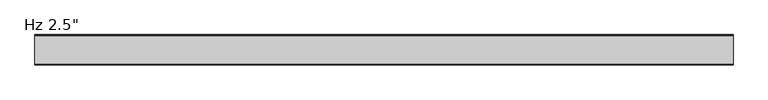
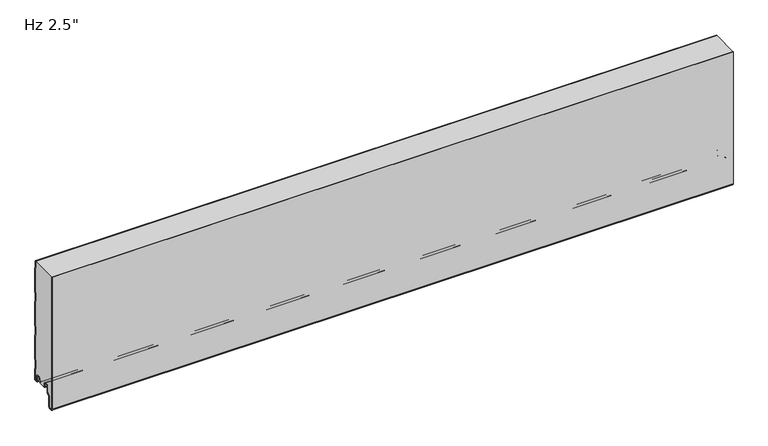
"""IFC4 building model written with IfcOpenShell, lengths in millimetres: plate geometry."""

from ifc_helpers import new_model, si_unit, point, frame, frame_2d, origin, place, context, project, spatial, polyline, circle_curve, trimmed, segment, composite_curve, outline, extrude, source, transform, mapped, element, save
from ifc_brep_helpers import plane_surface, cylinder_surface, revolved_surface, advanced_brep


def plate_fde0f3bd(model_context):
    return source(origin(), model_context, "Body", "SolidModel", [
        advanced_brep(
        [(-730.0, -17.0015159, 2.0313088), (-730.0, -18.0015191, 1.0313116), (-730.0, -19.0015105, 2.0313088), (-730.0, -19.0015105, 6.0315125), (-730.0, -18.0015159, 6.0315125), (-730.0, -18.0015159, 8.7237223), (-730.0, -14.7015202, 12.023718), (-730.0, -10.301529, 12.023718), (-730.0, -7.0015335, 8.7237225), (-730.0, -7.0015335, -1.6962564), (-730.0, -5.2315393, -3.4662506), (-730.0, -0.9999916, -3.4662506), (-730.0, -0.9999916, 21.034026), (-730.0, -2.2002307, 22.4196686), (-730.0, -2.2002307, 41.7948349), (-730.0, -1.0, 43.1804679), (-730.0, -1.0, 97.2338833), (-730.0, -2.2002307, 98.6195162), (-730.0, -2.2002307, 117.9946825), (-730.0, -1.0, 119.3803155), (-730.0, -1.0, 173.4337309), (-730.0, -2.2002307, 174.8193638), (-730.0, -2.2002307, 194.1945301), (-730.0, -1.0, 195.5801631), (-730.0, -1.0, 249.6335785), (-730.0, -2.2002307, 251.0192114), (-730.0, -2.2002307, 266.4), (-730.0, -1.2002307, 266.4), (-730.0, -1.2002307, 251.3920919), (-730.0, -0.3417885, 250.4010442), (-730.0, 0.0, 249.4844273), (-730.0, 0.0, 195.7293142), (-730.0, -0.3417885, 194.8126973), (-730.0, -1.2002307, 193.8216497), (-730.0, -1.2002307, 175.1922443), (-730.0, -0.3417885, 174.2011966), (-730.0, 0.0, 173.2845797), (-730.0, 0.0, 119.5294666), (-730.0, -0.3417885, 118.6128497), (-730.0, -1.2002307, 117.6218021), (-730.0, -1.2002307, 98.9923967), (-730.0, -0.3417885, 98.001349), (-730.0, 0.0, 97.0847321), (-730.0, 0.0, 43.329619), (-730.0, -0.3417885, 42.4130021), (-730.0, -1.2002307, 41.4219545), (-730.0, -1.2002307, 22.7925491), (-730.0, -0.3417885, 21.8015014), (-730.0, 0.0, 20.8847931), (-730.0, 8.4e-06, -3.0662545), (-730.0, -1.3999878, -4.4662506), (-730.0, -5.2315393, -4.4662506), (-730.0, -8.0015335, -1.6962564), (-730.0, -8.0015335, 8.7237225), (-730.0, -10.301529, 11.023718), (-730.0, -14.7015202, 11.023718), (-730.0, -17.0015159, 8.7237223), (730.0, -17.0015159, 2.0313088), (730.0, -17.0015159, 8.7237223), (730.0, -14.7015202, 11.023718), (730.0, -10.301529, 11.023718), (730.0, -8.0015335, 8.7237225), (730.0, -8.0015335, -1.6962564), (730.0, -5.2315393, -4.4662506), (730.0, -1.3999878, -4.4662506), (730.0, 8.4e-06, -3.0662545), (730.0, 8.4e-06, 20.8848845), (730.0, -0.3417885, 21.8015014), (730.0, -1.2002307, 22.7925491), (730.0, -1.2002307, 41.4219545), (730.0, -0.3417885, 42.4130021), (730.0, 0.0, 43.329619), (730.0, 0.0, 97.0847321), (730.0, -0.3417885, 98.001349), (730.0, -1.2002307, 98.9923967), (730.0, -1.2002307, 117.6218021), (730.0, -0.3417885, 118.6128497), (730.0, 0.0, 119.5294666), (730.0, 0.0, 173.2845797), (730.0, -0.3417885, 174.2011966), (730.0, -1.2002307, 175.1922443), (730.0, -1.2002307, 193.8216497), (730.0, -0.3417885, 194.8126973), (730.0, 0.0, 195.7293142), (730.0, 0.0, 249.4844273), (730.0, -0.3417885, 250.4010442), (730.0, -1.2002307, 251.3920919), (730.0, -1.2002307, 266.4), (730.0, -2.2002307, 266.4), (730.0, -2.2002307, 251.0192114), (730.0, -1.0, 249.6335785), (730.0, -1.0, 195.5801631), (730.0, -2.2002307, 194.1945301), (730.0, -2.2002307, 174.8193638), (730.0, -1.0, 173.4337309), (730.0, -1.0, 119.3803155), (730.0, -2.2002307, 117.9946825), (730.0, -2.2002307, 98.6195162), (730.0, -1.0, 97.2338833), (730.0, -1.0, 43.1804679), (730.0, -2.2002307, 41.7948349), (730.0, -2.2002307, 22.4196686), (730.0, -0.9999916, 21.034026), (730.0, -0.9999916, -3.4662506), (730.0, -5.2315393, -3.4662506), (730.0, -7.0015335, -1.6962564), (730.0, -7.0015335, 8.7237225), (730.0, -10.301529, 12.023718), (730.0, -14.7015202, 12.023718), (730.0, -18.0015159, 8.7237223), (730.0, -18.0015159, 6.0315125), (730.0, -19.0015105, 6.0315125), (730.0, -19.0015105, 2.0313088), (730.0, -18.0015192, 1.0313116)],
        [
            (0, 1, circle_curve(frame((-730.0, -18.0015132, 2.0313088), z_axis=(-1.0, 0.0, 0.0), x_axis=(0.0, 0.0, 1.0)), 0.9999973)),
            (1, 2, circle_curve(frame((-730.0, -18.0015133, 2.0313088), z_axis=(-1.0, 0.0, 0.0), x_axis=(0.0, 0.0, 1.0)), 0.9999972)),
            (2, 3),
            (3, 4),
            (4, 5),
            (5, 6, circle_curve(frame((-730.0, -14.7015202, 8.7237223), z_axis=(-1.0, 0.0, 0.0), x_axis=(0.0, 0.0, 1.0)), 3.2999957)),
            (6, 7),
            (7, 8, circle_curve(frame((-730.0, -10.301529, 8.7237225), z_axis=(-1.0, 0.0, 0.0), x_axis=(0.0, 0.0, 1.0)), 3.2999955)),
            (8, 9),
            (9, 10, circle_curve(frame((-730.0, -5.2315393, -1.6962564), z_axis=(1.0, 0.0, 0.0), x_axis=(0.0, 0.0, 1.0)), 1.7699942)),
            (10, 11),
            (11, 12),
            (12, 13),
            (13, 14),
            (14, 15),
            (15, 16),
            (16, 17),
            (17, 18),
            (18, 19),
            (19, 20),
            (20, 21),
            (21, 22),
            (22, 23),
            (23, 24),
            (24, 25),
            (25, 26),
            (26, 27),
            (27, 28),
            (28, 29),
            (29, 30, circle_curve(frame((-730.0, -1.3999972, 249.4844273), z_axis=(-1.0, 0.0, 0.0), x_axis=(0.0, 0.0, 1.0)), 1.3999972)),
            (30, 31),
            (31, 32, circle_curve(frame((-730.0, -1.3999972, 195.7293142), z_axis=(-1.0, 0.0, 0.0), x_axis=(0.0, 0.0, 1.0)), 1.3999972)),
            (32, 33),
            (33, 34),
            (34, 35),
            (35, 36, circle_curve(frame((-730.0, -1.3999972, 173.2845797), z_axis=(-1.0, 0.0, 0.0), x_axis=(0.0, 0.0, 1.0)), 1.3999972)),
            (36, 37),
            (37, 38, circle_curve(frame((-730.0, -1.3999972, 119.5294666), z_axis=(-1.0, 0.0, 0.0), x_axis=(0.0, 0.0, 1.0)), 1.3999972)),
            (38, 39),
            (39, 40),
            (40, 41),
            (41, 42, circle_curve(frame((-730.0, -1.3999972, 97.0847321), z_axis=(-1.0, 0.0, 0.0), x_axis=(0.0, 0.0, 1.0)), 1.3999972)),
            (42, 43),
            (43, 44, circle_curve(frame((-730.0, -1.3999972, 43.329619), z_axis=(-1.0, 0.0, 0.0), x_axis=(0.0, 0.0, 1.0)), 1.3999972)),
            (44, 45),
            (45, 46),
            (46, 47),
            (47, 48, circle_curve(frame((-730.0, -1.3999972, 20.8848845), z_axis=(-1.0, 0.0, 0.0), x_axis=(0.0, 0.0, 1.0)), 1.3999972)),
            (48, 49),
            (49, 50, circle_curve(frame((-730.0, -1.3999878, -3.0662545), z_axis=(-1.0, 0.0, 0.0), x_axis=(0.0, 0.0, 1.0)), 1.3999962)),
            (50, 51),
            (51, 52, circle_curve(frame((-730.0, -5.2315393, -1.6962564), z_axis=(-1.0, 0.0, 0.0), x_axis=(0.0, 0.0, 1.0)), 2.7699942)),
            (52, 53),
            (53, 54, circle_curve(frame((-730.0, -10.301529, 8.7237225), z_axis=(1.0, 0.0, 0.0), x_axis=(0.0, 0.0, 1.0)), 2.2999955)),
            (54, 55),
            (55, 56, circle_curve(frame((-730.0, -14.7015202, 8.7237223), z_axis=(1.0, 0.0, 0.0), x_axis=(0.0, 0.0, 1.0)), 2.2999957)),
            (56, 0),
            (57, 58),
            (58, 59, circle_curve(frame((730.0, -14.7015202, 8.7237223), z_axis=(-1.0, 0.0, 0.0), x_axis=(0.0, 0.0, 1.0)), 2.2999957)),
            (59, 60),
            (60, 61, circle_curve(frame((730.0, -10.301529, 8.7237225), z_axis=(-1.0, 0.0, 0.0), x_axis=(0.0, 0.0, 1.0)), 2.2999955)),
            (61, 62),
            (62, 63, circle_curve(frame((730.0, -5.2315393, -1.6962564), z_axis=(1.0, 0.0, 0.0), x_axis=(0.0, 0.0, 1.0)), 2.7699942)),
            (63, 64),
            (64, 65, circle_curve(frame((730.0, -1.3999878, -3.0662545), z_axis=(1.0, 0.0, 0.0), x_axis=(0.0, 0.0, 1.0)), 1.3999962)),
            (65, 66),
            (66, 67, circle_curve(frame((730.0, -1.3999972, 20.8848845), z_axis=(1.0, 0.0, 0.0), x_axis=(0.0, 0.0, 1.0)), 1.3999972)),
            (67, 68),
            (68, 69),
            (69, 70),
            (70, 71, circle_curve(frame((730.0, -1.3999972, 43.329619), z_axis=(1.0, 0.0, 0.0), x_axis=(0.0, 0.0, 1.0)), 1.3999972)),
            (71, 72),
            (72, 73, circle_curve(frame((730.0, -1.3999972, 97.0847321), z_axis=(1.0, 0.0, 0.0), x_axis=(0.0, 0.0, 1.0)), 1.3999972)),
            (73, 74),
            (74, 75),
            (75, 76),
            (76, 77, circle_curve(frame((730.0, -1.3999972, 119.5294666), z_axis=(1.0, 0.0, 0.0), x_axis=(0.0, 0.0, 1.0)), 1.3999972)),
            (77, 78),
            (78, 79, circle_curve(frame((730.0, -1.3999972, 173.2845797), z_axis=(1.0, 0.0, 0.0), x_axis=(0.0, 0.0, 1.0)), 1.3999972)),
            (79, 80),
            (80, 81),
            (81, 82),
            (82, 83, circle_curve(frame((730.0, -1.3999972, 195.7293142), z_axis=(1.0, 0.0, 0.0), x_axis=(0.0, 0.0, 1.0)), 1.3999972)),
            (83, 84),
            (84, 85, circle_curve(frame((730.0, -1.3999972, 249.4844273), z_axis=(1.0, 0.0, 0.0), x_axis=(0.0, 0.0, 1.0)), 1.3999972)),
            (85, 86),
            (86, 87),
            (87, 88),
            (88, 89),
            (89, 90),
            (90, 91),
            (91, 92),
            (92, 93),
            (93, 94),
            (94, 95),
            (95, 96),
            (96, 97),
            (97, 98),
            (98, 99),
            (99, 100),
            (100, 101),
            (101, 102),
            (102, 103),
            (103, 104),
            (104, 105, circle_curve(frame((730.0, -5.2315393, -1.6962564), z_axis=(-1.0, 0.0, 0.0), x_axis=(0.0, 0.0, 1.0)), 1.7699942)),
            (105, 106),
            (106, 107, circle_curve(frame((730.0, -10.301529, 8.7237225), z_axis=(1.0, 0.0, 0.0), x_axis=(0.0, 0.0, 1.0)), 3.2999955)),
            (107, 108),
            (108, 109, circle_curve(frame((730.0, -14.7015202, 8.7237223), z_axis=(1.0, 0.0, 0.0), x_axis=(0.0, 0.0, 1.0)), 3.2999957)),
            (109, 110),
            (110, 111),
            (111, 112),
            (112, 113, circle_curve(frame((730.0, -18.0015133, 2.0313088), z_axis=(1.0, 0.0, 0.0), x_axis=(0.0, 0.0, 1.0)), 0.9999972)),
            (113, 57, circle_curve(frame((730.0, -18.0015132, 2.0313088), z_axis=(1.0, 0.0, 0.0), x_axis=(0.0, 0.0, 1.0)), 0.9999973)),
            (26, 88),
            (87, 27),
            (56, 58),
            (57, 0),
            (55, 59),
            (54, 60),
            (53, 61),
            (52, 62),
            (51, 63),
            (50, 64),
            (49, 65),
            (48, 66),
            (47, 67),
            (46, 68),
            (45, 69),
            (44, 70),
            (43, 71),
            (42, 72),
            (41, 73),
            (40, 74),
            (39, 75),
            (38, 76),
            (37, 77),
            (36, 78),
            (19, 95),
            (94, 20),
            (18, 96),
            (17, 97),
            (16, 98),
            (15, 99),
            (14, 100),
            (13, 101),
            (12, 102),
            (11, 103),
            (10, 104),
            (9, 105),
            (8, 106),
            (7, 107),
            (6, 108),
            (5, 109),
            (4, 110),
            (3, 111),
            (2, 112),
            (1, 113),
            (35, 79),
            (34, 80),
            (33, 81),
            (32, 82),
            (31, 83),
            (30, 84),
            (29, 85),
            (28, 86),
            (25, 89),
            (24, 90),
            (23, 91),
            (22, 92),
            (21, 93),
        ],
        [
            plane_surface(frame((-730.0, 0.0, 533.4), z_axis=(-1.0, 0.0, 0.0), x_axis=(0.0, 1.0, 0.0))),
            plane_surface(frame((730.0, 0.0, 533.4), z_axis=(1.0, 0.0, 0.0), x_axis=(0.0, 1.0, 0.0))),
            plane_surface(frame((730.0, 10.0, 266.4), z_axis=(0.0, 0.0, 1.0), x_axis=(-1.0, 0.0, 0.0))),
            plane_surface(frame((-730.0, -17.0015159, 2.0313088), z_axis=(0.0, 1.0, 0.0), x_axis=(1.0, 0.0, 0.0))),
            revolved_surface(polyline([(730.0, -14.7015202, 11.023718), (-730.0, -14.7015202, 11.023718)]), (-730.0, -14.7015202, 8.7237223), (1.0, 0.0, 0.0)),
            plane_surface(frame((-730.0, -14.7015202, 11.023718), z_axis=(0.0, 0.0, -1.0), x_axis=(1.0, 0.0, 0.0))),
            revolved_surface(polyline([(730.0, -10.301529, 11.023717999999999), (-730.0, -10.301529, 11.023717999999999)]), (-730.0, -10.301529, 8.7237225), (1.0, 0.0, 0.0)),
            plane_surface(frame((-730.0, -8.0015335, 8.7237225), z_axis=(0.0, -1.0, 0.0), x_axis=(1.0, 0.0, 0.0))),
            cylinder_surface(frame((-730.0, -5.2315393, -1.6962564), z_axis=(-1.0, 0.0, 0.0), x_axis=(0.0, 0.0, 1.0)), 2.7699942),
            plane_surface(frame((-730.0, -5.2315393, -4.4662506), z_axis=(0.0, 0.0, -1.0), x_axis=(1.0, 0.0, 0.0))),
            cylinder_surface(frame((-730.0, -1.3999878, -3.0662545), z_axis=(-1.0, 0.0, 0.0), x_axis=(0.0, 0.0, 1.0)), 1.3999962),
            plane_surface(frame((-730.0, 8.4e-06, -3.0662545), z_axis=(0.0, 1.0, 0.0), x_axis=(1.0, 0.0, 0.0))),
            cylinder_surface(frame((-730.0, -1.3999972, 20.8848845), z_axis=(-1.0, 0.0, 0.0), x_axis=(0.0, 0.0, 1.0)), 1.3999972),
            plane_surface(frame((-730.0, -0.3417885, 21.8015014), z_axis=(0.0, 0.755864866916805, 0.6547276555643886), x_axis=(1.0, 0.0, 0.0))),
            plane_surface(frame((-730.0, -1.2002307, 32.1072518), z_axis=(0.0, 1.0, 0.0), x_axis=(1.0, 0.0, 0.0))),
            plane_surface(frame((-730.0, -1.2002307, 41.4219545), z_axis=(0.0, 0.755864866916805, -0.6547276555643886), x_axis=(1.0, 0.0, 0.0))),
            cylinder_surface(frame((-730.0, -1.3999972, 43.329619), z_axis=(-1.0, 0.0, 0.0), x_axis=(0.0, 0.0, 1.0)), 1.3999972),
            plane_surface(frame((-730.0, 0.0, 43.329619), z_axis=(0.0, 1.0, 0.0), x_axis=(1.0, 0.0, 0.0))),
            cylinder_surface(frame((-730.0, -1.3999972, 97.0847321), z_axis=(-1.0, 0.0, 0.0), x_axis=(0.0, 0.0, 1.0)), 1.3999972),
            plane_surface(frame((-730.0, -0.3417885, 98.001349), z_axis=(0.0, 0.755864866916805, 0.6547276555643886), x_axis=(1.0, 0.0, 0.0))),
            plane_surface(frame((-730.0, -1.2002307, 108.3070994), z_axis=(0.0, 1.0, 0.0), x_axis=(1.0, 0.0, 0.0))),
            plane_surface(frame((-730.0, -1.2002307, 117.6218021), z_axis=(0.0, 0.755864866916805, -0.6547276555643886), x_axis=(1.0, 0.0, 0.0))),
            cylinder_surface(frame((-730.0, -1.3999972, 119.5294666), z_axis=(-1.0, 0.0, 0.0), x_axis=(0.0, 0.0, 1.0)), 1.3999972),
            plane_surface(frame((-730.0, 0.0, 119.5294666), z_axis=(0.0, 1.0, 0.0), x_axis=(1.0, 0.0, 0.0))),
            plane_surface(frame((-730.0, -1.0, 173.4337309), z_axis=(0.0, -1.0, 0.0), x_axis=(1.0, 0.0, 0.0))),
            plane_surface(frame((-730.0, -1.0, 119.3803155), z_axis=(0.0, -0.755864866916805, 0.6547276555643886), x_axis=(1.0, 0.0, 0.0))),
            plane_surface(frame((-730.0, -2.2002307, 117.9946825), z_axis=(0.0, -1.0, 0.0), x_axis=(1.0, 0.0, 0.0))),
            plane_surface(frame((-730.0, -2.2002307, 98.6195162), z_axis=(0.0, -0.755864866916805, -0.6547276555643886), x_axis=(1.0, 0.0, 0.0))),
            plane_surface(frame((-730.0, -1.0, 97.2338833), z_axis=(0.0, -1.0, 0.0), x_axis=(1.0, 0.0, 0.0))),
            plane_surface(frame((-730.0, -1.0, 43.1804679), z_axis=(0.0, -0.755864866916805, 0.6547276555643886), x_axis=(1.0, 0.0, 0.0))),
            plane_surface(frame((-730.0, -2.2002307, 41.7948349), z_axis=(0.0, -1.0, 0.0), x_axis=(1.0, 0.0, 0.0))),
            plane_surface(frame((-730.0, -2.2002307, 22.4196686), z_axis=(0.0, -0.755864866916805, -0.6547276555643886), x_axis=(1.0, 0.0, 0.0))),
            plane_surface(frame((-730.0, -0.9999916, 21.034026), z_axis=(0.0, -1.0, 0.0), x_axis=(1.0, 0.0, 0.0))),
            plane_surface(frame((-730.0, -0.9999916, -3.4662506), z_axis=(0.0, 0.0, 1.0), x_axis=(1.0, 0.0, 0.0))),
            revolved_surface(polyline([(730.0, -5.2315393, 0.07373779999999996), (-730.0, -5.2315393, 0.07373779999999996)]), (-730.0, -5.2315393, -1.6962564), (1.0, 0.0, 0.0)),
            plane_surface(frame((-730.0, -7.0015335, -1.6962564), z_axis=(0.0, 1.0, 0.0), x_axis=(1.0, 0.0, 0.0))),
            cylinder_surface(frame((-730.0, -10.301529, 8.7237225), z_axis=(-1.0, 0.0, 0.0), x_axis=(0.0, 0.0, 1.0)), 3.2999955),
            plane_surface(frame((-730.0, -10.301529, 12.023718), z_axis=(0.0, 0.0, 1.0), x_axis=(1.0, 0.0, 0.0))),
            cylinder_surface(frame((-730.0, -14.7015202, 8.7237223), z_axis=(-1.0, 0.0, 0.0), x_axis=(0.0, 0.0, 1.0)), 3.2999957),
            plane_surface(frame((-730.0, -18.0015159, 8.7237223), z_axis=(0.0, -1.0, 0.0), x_axis=(1.0, 0.0, 0.0))),
            plane_surface(frame((-730.0, -18.0015159, 6.0315125), z_axis=(0.0, 0.0, 1.0), x_axis=(1.0, 0.0, 0.0))),
            plane_surface(frame((-730.0, -19.0015105, 6.0315125), z_axis=(0.0, -1.0, 0.0), x_axis=(1.0, 0.0, 0.0))),
            cylinder_surface(frame((-730.0, -18.0015133, 2.0313088), z_axis=(-1.0, 0.0, 0.0), x_axis=(0.0, 0.0, 1.0)), 0.9999972),
            cylinder_surface(frame((-730.0, -18.0015132, 2.0313088), z_axis=(-1.0, 0.0, 0.0), x_axis=(0.0, 0.0, 1.0)), 0.9999973),
            cylinder_surface(frame((-730.0, -1.3999972, 173.2845797), z_axis=(-1.0, 0.0, 0.0), x_axis=(0.0, 0.0, 1.0)), 1.3999972),
            plane_surface(frame((-730.0, -0.3417885, 174.2011966), z_axis=(0.0, 0.755864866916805, 0.6547276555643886), x_axis=(1.0, 0.0, 0.0))),
            plane_surface(frame((-730.0, -1.2002307, 184.506947), z_axis=(0.0, 1.0, 0.0), x_axis=(1.0, 0.0, 0.0))),
            plane_surface(frame((-730.0, -1.2002307, 193.8216497), z_axis=(0.0, 0.755864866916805, -0.6547276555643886), x_axis=(1.0, 0.0, 0.0))),
            cylinder_surface(frame((-730.0, -1.3999972, 195.7293142), z_axis=(-1.0, 0.0, 0.0), x_axis=(0.0, 0.0, 1.0)), 1.3999972),
            plane_surface(frame((-730.0, 0.0, 195.7293142), z_axis=(0.0, 1.0, 0.0), x_axis=(1.0, 0.0, 0.0))),
            cylinder_surface(frame((-730.0, -1.3999972, 249.4844273), z_axis=(-1.0, 0.0, 0.0), x_axis=(0.0, 0.0, 1.0)), 1.3999972),
            plane_surface(frame((-730.0, -0.3417885, 250.4010442), z_axis=(0.0, 0.755864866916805, 0.6547276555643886), x_axis=(1.0, 0.0, 0.0))),
            plane_surface(frame((-730.0, -1.2002307, 260.7067946), z_axis=(0.0, 1.0, 0.0), x_axis=(1.0, 0.0, 0.0))),
            plane_surface(frame((-730.0, -2.2002307, 270.3943777), z_axis=(0.0, -1.0, 0.0), x_axis=(1.0, 0.0, 0.0))),
            plane_surface(frame((-730.0, -2.2002307, 251.0192114), z_axis=(0.0, -0.755864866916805, -0.6547276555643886), x_axis=(1.0, 0.0, 0.0))),
            plane_surface(frame((-730.0, -1.0, 249.6335785), z_axis=(0.0, -1.0, 0.0), x_axis=(1.0, 0.0, 0.0))),
            plane_surface(frame((-730.0, -1.0, 195.5801631), z_axis=(0.0, -0.755864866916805, 0.6547276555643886), x_axis=(1.0, 0.0, 0.0))),
            plane_surface(frame((-730.0, -2.2002307, 194.1945301), z_axis=(0.0, -1.0, 0.0), x_axis=(1.0, 0.0, 0.0))),
            plane_surface(frame((-730.0, -2.2002307, 174.8193638), z_axis=(0.0, -0.755864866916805, -0.6547276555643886), x_axis=(1.0, 0.0, 0.0))),
        ],
        [
            (0, [[1, 2, 3, 4, 5, 6, 7, 8, 9, 10, 11, 12, 13, 14, 15, 16, 17, 18, 19, 20, 21, 22, 23, 24, 25, 26, 27, 28, 29, 30, 31, 32, 33, 34, 35, 36, 37, 38, 39, 40, 41, 42, 43, 44, 45, 46, 47, 48, 49, 50, 51, 52, 53, 54, 55, 56, 57]]),
            (1, [[58, 59, 60, 61, 62, 63, 64, 65, 66, 67, 68, 69, 70, 71, 72, 73, 74, 75, 76, 77, 78, 79, 80, 81, 82, 83, 84, 85, 86, 87, 88, 89, 90, 91, 92, 93, 94, 95, 96, 97, 98, 99, 100, 101, 102, 103, 104, 105, 106, 107, 108, 109, 110, 111, 112, 113, 114]]),
            (2, [[115, -88, 116, -27]]),
            (3, [[117, -58, 118, -57]]),
            (4, [[119, -59, -117, -56]]),
            (5, [[120, -60, -119, -55]]),
            (6, [[121, -61, -120, -54]]),
            (7, [[122, -62, -121, -53]]),
            (8, [[123, -63, -122, -52]]),
            (9, [[124, -64, -123, -51]]),
            (10, [[125, -65, -124, -50]]),
            (11, [[126, -66, -125, -49]]),
            (12, [[127, -67, -126, -48]]),
            (13, [[128, -68, -127, -47]]),
            (14, [[129, -69, -128, -46]]),
            (15, [[130, -70, -129, -45]]),
            (16, [[131, -71, -130, -44]]),
            (17, [[132, -72, -131, -43]]),
            (18, [[133, -73, -132, -42]]),
            (19, [[134, -74, -133, -41]]),
            (20, [[135, -75, -134, -40]]),
            (21, [[136, -76, -135, -39]]),
            (22, [[137, -77, -136, -38]]),
            (23, [[138, -78, -137, -37]]),
            (24, [[139, -95, 140, -20]]),
            (25, [[141, -96, -139, -19]]),
            (26, [[142, -97, -141, -18]]),
            (27, [[143, -98, -142, -17]]),
            (28, [[144, -99, -143, -16]]),
            (29, [[145, -100, -144, -15]]),
            (30, [[146, -101, -145, -14]]),
            (31, [[147, -102, -146, -13]]),
            (32, [[148, -103, -147, -12]]),
            (33, [[149, -104, -148, -11]]),
            (34, [[150, -105, -149, -10]]),
            (35, [[151, -106, -150, -9]]),
            (36, [[152, -107, -151, -8]]),
            (37, [[153, -108, -152, -7]]),
            (38, [[154, -109, -153, -6]]),
            (39, [[155, -110, -154, -5]]),
            (40, [[156, -111, -155, -4]]),
            (41, [[157, -112, -156, -3]]),
            (42, [[158, -113, -157, -2]]),
            (43, [[-118, -114, -158, -1]]),
            (44, [[159, -79, -138, -36]]),
            (45, [[160, -80, -159, -35]]),
            (46, [[161, -81, -160, -34]]),
            (47, [[162, -82, -161, -33]]),
            (48, [[163, -83, -162, -32]]),
            (49, [[164, -84, -163, -31]]),
            (50, [[165, -85, -164, -30]]),
            (51, [[166, -86, -165, -29]]),
            (52, [[-28, -116, -87, -166]]),
            (53, [[-89, -115, -26, 167]]),
            (54, [[168, -90, -167, -25]]),
            (55, [[169, -91, -168, -24]]),
            (56, [[170, -92, -169, -23]]),
            (57, [[171, -93, -170, -22]]),
            (58, [[-140, -94, -171, -21]]),
        ],
    ),
        extrude(outline(composite_curve([segment(trimmed(circle_curve(frame_2d((-59.9304001, -32.4521176)), 3.5702393), [point((-59.6191297, -36.008762))], [point((-63.5, -32.5196853))], False, "CARTESIAN"), True, "CONTINUOUS"), segment(polyline([(-63.5, -32.5196853), (-63.5, 266.4), (-62.5, 266.4), (-62.5, -32.509446)]), True, "CONTINUOUS"), segment(trimmed(circle_curve(frame_2d((-59.9304001, -32.4521176)), 2.5702393), [point((-62.5, -32.509446))], [point((-59.7063145, -35.0125699))], True, "CARTESIAN"), True, "CONTINUOUS"), segment(polyline([(-59.7063145, -35.0125699), (-54.7244936, -34.5765709)]), True, "CONTINUOUS"), segment(trimmed(circle_curve(frame_2d((-55.2058842, -31.9198392)), 2.6999926), [point((-54.7244936, -34.5765709))], [point((-52.5058916, -31.9198392))], True, "CARTESIAN"), True, "CONTINUOUS"), segment(polyline([(-52.5058916, -31.9198392), (-52.5058916, -9.8247096), (-47.0038205, -4.3226385)]), True, "CONTINUOUS"), segment(trimmed(circle_curve(frame_2d((-48.2058982, -3.1205608)), 1.6999946), [point((-47.0038205, -4.3226385))], [point((-46.5059036, -3.1205608))], True, "CARTESIAN"), True, "CONTINUOUS"), segment(polyline([(-46.5059036, -3.1205608), (-46.5059036, 8.6903283)]), True, "CONTINUOUS"), segment(trimmed(circle_curve(frame_2d((-43.1559083, 8.6903283)), 3.3499953), [point((-46.5059036, 8.6903283))], [point((-43.1559083, 12.0403236))], False, "CARTESIAN"), True, "CONTINUOUS"), segment(polyline([(-43.1559083, 12.0403236), (-38.7559171, 12.0403236)]), True, "CONTINUOUS"), segment(trimmed(circle_curve(frame_2d((-38.7559171, 8.6903283)), 3.3499953), [point((-38.7559171, 12.0403236))], [point((-35.4059218, 8.6903283))], False, "CARTESIAN"), True, "CONTINUOUS"), segment(polyline([(-35.4059218, 8.6903283), (-35.4059218, 5.9912173), (-34.0074429, 5.9912173), (-34.0074429, 2.2328239)]), True, "CONTINUOUS"), segment(trimmed(circle_curve(frame_2d((-35.2074396, 2.2313092)), 1.1999976), [point((-34.0074429, 2.2328239))], [point((-35.1769177, 1.0316999))], False, "CARTESIAN"), True, "CONTINUOUS"), segment(trimmed(circle_curve(frame_2d((-35.2074396, 2.2313092)), 1.1999976), [point((-35.1769177, 1.0316999))], [point((-36.4059218, 2.1710221))], False, "CARTESIAN"), True, "CONTINUOUS"), segment(polyline([(-36.4059218, 2.1710221), (-36.4059218, 8.6903283)]), True, "CONTINUOUS"), segment(trimmed(circle_curve(frame_2d((-38.7559171, 8.6903283)), 2.3499953), [point((-36.4059218, 8.6903283))], [point((-38.7559171, 11.0403236))], True, "CARTESIAN"), True, "CONTINUOUS"), segment(polyline([(-38.7559171, 11.0403236), (-43.1559083, 11.0403236)]), True, "CONTINUOUS"), segment(trimmed(circle_curve(frame_2d((-43.1559083, 8.6903283)), 2.3499953), [point((-43.1559083, 11.0403236))], [point((-45.5059036, 8.6903283))], True, "CARTESIAN"), True, "CONTINUOUS"), segment(polyline([(-45.5059036, 8.6903283), (-45.5059036, -3.1205608)]), True, "CONTINUOUS"), segment(trimmed(circle_curve(frame_2d((-48.2058982, -3.1205608)), 2.6999946), [point((-45.5059036, -3.1205608))], [point((-46.2967137, -5.0297453))], False, "CARTESIAN"), True, "CONTINUOUS"), segment(polyline([(-46.2967137, -5.0297453), (-51.1251312, -9.8581627)]), True, "CONTINUOUS"), segment(trimmed(circle_curve(frame_2d((-50.2058942, -10.7773997)), 1.2999974), [point((-51.1251312, -9.8581627))], [point((-51.5058916, -10.7773997))], True, "CARTESIAN"), True, "CONTINUOUS"), segment(polyline([(-51.5058916, -10.7773997), (-51.5058916, -31.9198392)]), True, "CONTINUOUS"), segment(trimmed(circle_curve(frame_2d((-55.2058842, -31.9198392)), 3.6999926), [point((-51.5058916, -31.9198392))], [point((-54.5950831, -35.5690675))], False, "CARTESIAN"), True, "CONTINUOUS"), segment(polyline([(-54.5950831, -35.5690675), (-59.6191297, -36.008762)]), True, "CONTINUOUS")], self_intersect=False)), frame((-730.0, 0.0, 0.0), z_axis=(1.0, 0.0, 0.0), x_axis=(0.0, 1.0, 0.0)), (0.0, 0.0, 1.0), 1460.0),
        advanced_brep(
        [(-730.0, -35.170875, 1.0316999), (-730.0, -34.0014003, 2.2328239), (-730.0, -34.0014003, 5.9912173), (-730.0, -35.3998791, 5.9912173), (-730.0, -35.3998791, 8.6903283), (-730.0, -38.7498744, 12.0403236), (-730.0, -43.1498656, 12.0403236), (-730.0, -46.4998609, 8.6903283), (-730.0, -46.4998609, -3.1205608), (-730.0, -46.9977778, -4.3226385), (-730.0, -52.4998489, -9.8247096), (-730.0, -52.4998489, -31.9198392), (-730.0, -54.7184509, -34.5765709), (-730.0, -59.7002718, -35.0125699), (-730.0, -62.4945967, -32.4521176), (-730.0, -62.5, 266.4), (-730.0, -2.2002307, 266.4), (-730.0, -2.2002307, 251.0192115), (-730.0, -1.0, 249.6335785), (-730.0, -1.0, 195.5801631), (-730.0, -2.2002307, 194.1945302), (-730.0, -2.2002307, 174.8193639), (-730.0, -1.0, 173.4337309), (-730.0, -1.0, 119.3803155), (-730.0, -2.2002307, 117.9946826), (-730.0, -2.2002307, 98.6195163), (-730.0, -1.0, 97.2338833), (-730.0, -1.0, 43.1804679), (-730.0, -2.2002307, 41.794835), (-730.0, -2.2002307, 22.4196687), (-730.0, -0.9999916, 21.034026), (-730.0, -0.9999916, -3.4662506), (-730.0, -5.2315389, -3.4662506), (-730.0, -7.0015331, -1.6962564), (-730.0, -7.0015331, 8.7237222), (-730.0, -10.301529, 12.023718), (-730.0, -14.7015202, 12.023718), (-730.0, -18.0015159, 8.7237223), (-730.0, -18.0015159, 6.0315125), (-730.0, -19.0015105, 6.0315125), (-730.0, -19.0015105, 2.0313089), (-730.0, -18.0015192, 1.0313117), (-730.0, -19.0328308, 0.0), (-730.0, -34.1391751, 0.0), (730.0, -35.170875, 1.0316999), (730.0, -34.1391751, 0.0), (730.0, -19.0328308, 0.0), (730.0, -18.0015192, 1.0313117), (730.0, -19.0015105, 2.0313089), (730.0, -19.0015105, 6.0315125), (730.0, -18.0015159, 6.0315125), (730.0, -18.0015159, 8.7237223), (730.0, -14.7015202, 12.023718), (730.0, -10.301529, 12.023718), (730.0, -7.0015331, 8.7237222), (730.0, -7.0015331, -1.6962564), (730.0, -5.2315389, -3.4662506), (730.0, -0.9999916, -3.4662506), (730.0, -0.9999916, 21.034026), (730.0, -2.2002307, 22.4196687), (730.0, -2.2002307, 41.794835), (730.0, -1.0, 43.1804679), (730.0, -1.0, 97.2338833), (730.0, -2.2002307, 98.6195163), (730.0, -2.2002307, 117.9946826), (730.0, -1.0, 119.3803155), (730.0, -1.0, 173.4337309), (730.0, -2.2002307, 174.8193639), (730.0, -2.2002307, 194.1945302), (730.0, -1.0, 195.5801631), (730.0, -1.0, 249.6335785), (730.0, -2.2002307, 251.0192115), (730.0, -2.2002307, 266.4), (730.0, -62.5, 266.4), (730.0, -62.5, -32.4521176), (730.0, -59.7002718, -35.0125699), (730.0, -54.7184509, -34.5765709), (730.0, -52.4998489, -31.9198392), (730.0, -52.4998489, -9.8247096), (730.0, -46.9977778, -4.3226385), (730.0, -46.4998609, -3.1205608), (730.0, -46.4998609, 8.6903283), (730.0, -43.1498656, 12.0403236), (730.0, -38.7498744, 12.0403236), (730.0, -35.3998791, 8.6903283), (730.0, -35.3998791, 5.9912173), (730.0, -34.0014003, 5.9912173), (730.0, -34.0014003, 2.2328239)],
        [
            (0, 1, circle_curve(frame((-730.0, -35.2013969, 2.2313092), z_axis=(1.0, 0.0, 0.0), x_axis=(0.0, 0.0, -1.0)), 1.1999976)),
            (1, 2),
            (2, 3),
            (3, 4),
            (4, 5, circle_curve(frame((-730.0, -38.7498744, 8.6903283), z_axis=(1.0, 0.0, 0.0), x_axis=(0.0, 0.0, -1.0)), 3.3499953)),
            (5, 6),
            (6, 7, circle_curve(frame((-730.0, -43.1498656, 8.6903283), z_axis=(1.0, 0.0, 0.0), x_axis=(0.0, 0.0, -1.0)), 3.3499953)),
            (7, 8),
            (8, 9, circle_curve(frame((-730.0, -48.1998555, -3.1205608), z_axis=(-1.0, 0.0, 0.0), x_axis=(0.0, 0.0, -1.0)), 1.6999946)),
            (9, 10),
            (10, 11),
            (11, 12, circle_curve(frame((-730.0, -55.1998415, -31.9198392), z_axis=(-1.0, 0.0, 0.0), x_axis=(0.0, 0.0, -1.0)), 2.6999926)),
            (12, 13),
            (13, 14, circle_curve(frame((-730.0, -59.9243575, -32.4521176), z_axis=(-1.0, 0.0, 0.0), x_axis=(0.0, 0.0, -1.0)), 2.5702393)),
            (14, 15),
            (15, 16),
            (16, 17),
            (17, 18),
            (18, 19),
            (19, 20),
            (20, 21),
            (21, 22),
            (22, 23),
            (23, 24),
            (24, 25),
            (25, 26),
            (26, 27),
            (27, 28),
            (28, 29),
            (29, 30),
            (30, 31),
            (31, 32),
            (32, 33, circle_curve(frame((-730.0, -5.2315389, -1.6962564), z_axis=(-1.0, 0.0, 0.0), x_axis=(0.0, 0.0, -1.0)), 1.7699942)),
            (33, 34),
            (34, 35, circle_curve(frame((-730.0, -10.301529, 8.7237222), z_axis=(1.0, 0.0, 0.0), x_axis=(0.0, 0.0, -1.0)), 3.2999959)),
            (35, 36),
            (36, 37, circle_curve(frame((-730.0, -14.7015202, 8.7237223), z_axis=(1.0, 0.0, 0.0), x_axis=(0.0, 0.0, -1.0)), 3.2999957)),
            (37, 38),
            (38, 39),
            (39, 40),
            (40, 41, circle_curve(frame((-730.0, -18.0015133, 2.0313089), z_axis=(1.0, 0.0, 0.0), x_axis=(0.0, 0.0, -1.0)), 0.9999972)),
            (41, 42),
            (42, 43),
            (43, 0),
            (44, 45),
            (45, 46),
            (46, 47),
            (47, 48, circle_curve(frame((730.0, -18.0015133, 2.0313089), z_axis=(-1.0, 0.0, 0.0), x_axis=(0.0, 0.0, -1.0)), 0.9999972)),
            (48, 49),
            (49, 50),
            (50, 51),
            (51, 52, circle_curve(frame((730.0, -14.7015202, 8.7237223), z_axis=(-1.0, 0.0, 0.0), x_axis=(0.0, 0.0, -1.0)), 3.2999957)),
            (52, 53),
            (53, 54, circle_curve(frame((730.0, -10.301529, 8.7237222), z_axis=(-1.0, 0.0, 0.0), x_axis=(0.0, 0.0, -1.0)), 3.2999959)),
            (54, 55),
            (55, 56, circle_curve(frame((730.0, -5.2315389, -1.6962564), z_axis=(1.0, 0.0, 0.0), x_axis=(0.0, 0.0, -1.0)), 1.7699942)),
            (56, 57),
            (57, 58),
            (58, 59),
            (59, 60),
            (60, 61),
            (61, 62),
            (62, 63),
            (63, 64),
            (64, 65),
            (65, 66),
            (66, 67),
            (67, 68),
            (68, 69),
            (69, 70),
            (70, 71),
            (71, 72),
            (72, 73),
            (73, 74),
            (74, 75, circle_curve(frame((730.0, -59.9243575, -32.4521176), z_axis=(1.0, 0.0, 0.0), x_axis=(0.0, 0.0, -1.0)), 2.5702393)),
            (75, 76),
            (76, 77, circle_curve(frame((730.0, -55.1998415, -31.9198392), z_axis=(1.0, 0.0, 0.0), x_axis=(0.0, 0.0, -1.0)), 2.6999926)),
            (77, 78),
            (78, 79),
            (79, 80, circle_curve(frame((730.0, -48.1998555, -3.1205608), z_axis=(1.0, 0.0, 0.0), x_axis=(0.0, 0.0, -1.0)), 1.6999946)),
            (80, 81),
            (81, 82, circle_curve(frame((730.0, -43.1498656, 8.6903283), z_axis=(-1.0, 0.0, 0.0), x_axis=(0.0, 0.0, -1.0)), 3.3499953)),
            (82, 83),
            (83, 84, circle_curve(frame((730.0, -38.7498744, 8.6903283), z_axis=(-1.0, 0.0, 0.0), x_axis=(0.0, 0.0, -1.0)), 3.3499953)),
            (84, 85),
            (85, 86),
            (86, 87),
            (87, 44, circle_curve(frame((730.0, -35.2013969, 2.2313092), z_axis=(-1.0, 0.0, 0.0), x_axis=(0.0, 0.0, -1.0)), 1.1999976)),
            (15, 73),
            (72, 16),
            (43, 45),
            (44, 0),
            (42, 46),
            (14, 74),
            (13, 75),
            (12, 76),
            (11, 77),
            (10, 78),
            (9, 79),
            (8, 80),
            (7, 81),
            (6, 82),
            (5, 83),
            (4, 84),
            (3, 85),
            (2, 86),
            (1, 87),
            (41, 47),
            (40, 48),
            (39, 49),
            (38, 50),
            (37, 51),
            (36, 52),
            (35, 53),
            (34, 54),
            (33, 55),
            (32, 56),
            (31, 57),
            (30, 58),
            (29, 59),
            (28, 60),
            (27, 61),
            (26, 62),
            (25, 63),
            (24, 64),
            (23, 65),
            (22, 66),
            (21, 67),
            (20, 68),
            (19, 69),
            (18, 70),
            (17, 71),
        ],
        [
            plane_surface(frame((-730.0, -62.5, 533.4), z_axis=(-1.0, 0.0, 0.0), x_axis=(0.0, -1.0, 0.0))),
            plane_surface(frame((730.0, -62.5, 533.4), z_axis=(1.0, 0.0, 0.0), x_axis=(0.0, -1.0, 0.0))),
            plane_surface(frame((730.0, 10.0, 266.4), z_axis=(0.0, 0.0, 1.0), x_axis=(-1.0, 0.0, 0.0))),
            plane_surface(frame((-730.0, -35.170875, 1.0316999), z_axis=(0.0, -0.7071067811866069, -0.7071067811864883), x_axis=(1.0, 0.0, 0.0))),
            plane_surface(frame((-730.0, -34.1391751, 0.0), z_axis=(0.0, 0.0, -1.0), x_axis=(1.0, 0.0, 0.0))),
            plane_surface(frame((-730.0, -62.5, 1018.3156233), z_axis=(0.0, -1.0, 0.0), x_axis=(1.0, 0.0, 0.0))),
            cylinder_surface(frame((-730.0, -59.9243575, -32.4521176), z_axis=(-1.0, 0.0, 0.0), x_axis=(0.0, 0.0, -1.0)), 2.5702393),
            plane_surface(frame((-730.0, -59.7002718, -35.0125699), z_axis=(0.0, 0.08718474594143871, -0.9961921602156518), x_axis=(1.0, 0.0, 0.0))),
            cylinder_surface(frame((-730.0, -55.1998415, -31.9198392), z_axis=(-1.0, 0.0, 0.0), x_axis=(0.0, 0.0, -1.0)), 2.6999926),
            plane_surface(frame((-730.0, -52.4998489, -31.9198392), z_axis=(0.0, 1.0, 0.0), x_axis=(1.0, 0.0, 0.0))),
            plane_surface(frame((-730.0, -52.4998489, -9.8247096), z_axis=(0.0, 0.7071067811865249, -0.7071067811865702), x_axis=(1.0, 0.0, 0.0))),
            cylinder_surface(frame((-730.0, -48.1998555, -3.1205608), z_axis=(-1.0, 0.0, 0.0), x_axis=(0.0, 0.0, -1.0)), 1.6999946),
            plane_surface(frame((-730.0, -46.4998609, -3.1205608), z_axis=(0.0, 1.0, 0.0), x_axis=(1.0, 0.0, 0.0))),
            revolved_surface(polyline([(730.0, -43.1498656, 5.340332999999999), (-730.0, -43.1498656, 5.340332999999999)]), (-730.0, -43.1498656, 8.6903283), (1.0, 0.0, 0.0)),
            plane_surface(frame((-730.0, -43.1498656, 12.0403236), z_axis=(0.0, 0.0, -1.0), x_axis=(1.0, 0.0, 0.0))),
            revolved_surface(polyline([(730.0, -38.7498744, 5.340332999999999), (-730.0, -38.7498744, 5.340332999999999)]), (-730.0, -38.7498744, 8.6903283), (1.0, 0.0, 0.0)),
            plane_surface(frame((-730.0, -35.3998791, 8.6903283), z_axis=(0.0, -1.0, 0.0), x_axis=(1.0, 0.0, 0.0))),
            plane_surface(frame((-730.0, -35.3998791, 5.9912173), z_axis=(0.0, 0.0, -1.0), x_axis=(1.0, 0.0, 0.0))),
            plane_surface(frame((-730.0, -34.0014003, 5.9912173), z_axis=(0.0, -1.0, 0.0), x_axis=(1.0, 0.0, 0.0))),
            revolved_surface(polyline([(730.0, -35.2013969, 1.0313116), (-730.0, -35.2013969, 1.0313116)]), (-730.0, -35.2013969, 2.2313092), (1.0, 0.0, 0.0)),
            plane_surface(frame((-730.0, -19.0328308, 0.0), z_axis=(0.0, 0.7071067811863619, -0.7071067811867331), x_axis=(1.0, 0.0, 0.0))),
            revolved_surface(polyline([(730.0, -18.0015133, 1.0313116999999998), (-730.0, -18.0015133, 1.0313116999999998)]), (-730.0, -18.0015133, 2.0313089), (1.0, 0.0, 0.0)),
            plane_surface(frame((-730.0, -19.0015105, 2.0313089), z_axis=(0.0, 1.0, 0.0), x_axis=(1.0, 0.0, 0.0))),
            plane_surface(frame((-730.0, -19.0015105, 6.0315125), z_axis=(0.0, 0.0, -1.0), x_axis=(1.0, 0.0, 0.0))),
            plane_surface(frame((-730.0, -18.0015159, 6.0315125), z_axis=(0.0, 1.0, 0.0), x_axis=(1.0, 0.0, 0.0))),
            revolved_surface(polyline([(730.0, -14.7015202, 5.4237266), (-730.0, -14.7015202, 5.4237266)]), (-730.0, -14.7015202, 8.7237223), (1.0, 0.0, 0.0)),
            plane_surface(frame((-730.0, -14.7015202, 12.023718), z_axis=(0.0, 0.0, -1.0), x_axis=(1.0, 0.0, 0.0))),
            revolved_surface(polyline([(730.0, -10.301529, 5.423726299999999), (-730.0, -10.301529, 5.423726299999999)]), (-730.0, -10.301529, 8.7237222), (1.0, 0.0, 0.0)),
            plane_surface(frame((-730.0, -7.0015331, 8.7237222), z_axis=(0.0, -1.0, 0.0), x_axis=(1.0, 0.0, 0.0))),
            cylinder_surface(frame((-730.0, -5.2315389, -1.6962564), z_axis=(-1.0, 0.0, 0.0), x_axis=(0.0, 0.0, -1.0)), 1.7699942),
            plane_surface(frame((-730.0, -5.2315389, -3.4662506), z_axis=(0.0, 0.0, -1.0), x_axis=(1.0, 0.0, 0.0))),
            plane_surface(frame((-730.0, -0.9999916, -3.4662506), z_axis=(0.0, 1.0, 0.0), x_axis=(1.0, 0.0, 0.0))),
            plane_surface(frame((-730.0, -0.9999916, 21.034026), z_axis=(0.0, 0.7558648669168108, 0.6547276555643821), x_axis=(1.0, 0.0, 0.0))),
            plane_surface(frame((-730.0, -2.2002307, 22.4196687), z_axis=(0.0, 1.0, 0.0), x_axis=(1.0, 0.0, 0.0))),
            plane_surface(frame((-730.0, -2.2002307, 41.794835), z_axis=(0.0, 0.7558648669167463, -0.6547276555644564), x_axis=(1.0, 0.0, 0.0))),
            plane_surface(frame((-730.0, -1.0, 43.1804679), z_axis=(0.0, 1.0, 0.0), x_axis=(1.0, 0.0, 0.0))),
            plane_surface(frame((-730.0, -1.0, 97.2338833), z_axis=(0.0, 0.7558648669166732, 0.6547276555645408), x_axis=(1.0, 0.0, 0.0))),
            plane_surface(frame((-730.0, -2.2002307, 98.6195163), z_axis=(0.0, 1.0, 0.0), x_axis=(1.0, 0.0, 0.0))),
            plane_surface(frame((-730.0, -2.2002307, 117.9946826), z_axis=(0.0, 0.7558648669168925, -0.6547276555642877), x_axis=(1.0, 0.0, 0.0))),
            plane_surface(frame((-730.0, -1.0, 119.3803155), z_axis=(0.0, 1.0, 0.0), x_axis=(1.0, 0.0, 0.0))),
            plane_surface(frame((-730.0, -1.0, 173.4337309), z_axis=(0.0, 0.7558648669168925, 0.6547276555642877), x_axis=(1.0, 0.0, 0.0))),
            plane_surface(frame((-730.0, -2.2002307, 174.8193639), z_axis=(0.0, 1.0, 0.0), x_axis=(1.0, 0.0, 0.0))),
            plane_surface(frame((-730.0, -2.2002307, 194.1945302), z_axis=(0.0, 0.7558648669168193, -0.6547276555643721), x_axis=(1.0, 0.0, 0.0))),
            plane_surface(frame((-730.0, -1.0, 195.5801631), z_axis=(0.0, 1.0, 0.0), x_axis=(1.0, 0.0, 0.0))),
            plane_surface(frame((-730.0, -1.0, 249.6335785), z_axis=(0.0, 0.7558648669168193, 0.6547276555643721), x_axis=(1.0, 0.0, 0.0))),
            plane_surface(frame((-730.0, -2.2002307, 251.0192115), z_axis=(0.0, 1.0, 0.0), x_axis=(1.0, 0.0, 0.0))),
        ],
        [
            (0, [[1, 2, 3, 4, 5, 6, 7, 8, 9, 10, 11, 12, 13, 14, 15, 16, 17, 18, 19, 20, 21, 22, 23, 24, 25, 26, 27, 28, 29, 30, 31, 32, 33, 34, 35, 36, 37, 38, 39, 40, 41, 42, 43, 44]]),
            (1, [[45, 46, 47, 48, 49, 50, 51, 52, 53, 54, 55, 56, 57, 58, 59, 60, 61, 62, 63, 64, 65, 66, 67, 68, 69, 70, 71, 72, 73, 74, 75, 76, 77, 78, 79, 80, 81, 82, 83, 84, 85, 86, 87, 88]]),
            (2, [[89, -73, 90, -16]]),
            (3, [[91, -45, 92, -44]]),
            (4, [[-43, 93, -46, -91]]),
            (5, [[-74, -89, -15, 94]]),
            (6, [[95, -75, -94, -14]]),
            (7, [[96, -76, -95, -13]]),
            (8, [[97, -77, -96, -12]]),
            (9, [[98, -78, -97, -11]]),
            (10, [[99, -79, -98, -10]]),
            (11, [[100, -80, -99, -9]]),
            (12, [[101, -81, -100, -8]]),
            (13, [[102, -82, -101, -7]]),
            (14, [[103, -83, -102, -6]]),
            (15, [[104, -84, -103, -5]]),
            (16, [[105, -85, -104, -4]]),
            (17, [[106, -86, -105, -3]]),
            (18, [[107, -87, -106, -2]]),
            (19, [[-92, -88, -107, -1]]),
            (20, [[108, -47, -93, -42]]),
            (21, [[109, -48, -108, -41]]),
            (22, [[110, -49, -109, -40]]),
            (23, [[111, -50, -110, -39]]),
            (24, [[112, -51, -111, -38]]),
            (25, [[113, -52, -112, -37]]),
            (26, [[114, -53, -113, -36]]),
            (27, [[115, -54, -114, -35]]),
            (28, [[116, -55, -115, -34]]),
            (29, [[117, -56, -116, -33]]),
            (30, [[118, -57, -117, -32]]),
            (31, [[119, -58, -118, -31]]),
            (32, [[120, -59, -119, -30]]),
            (33, [[121, -60, -120, -29]]),
            (34, [[122, -61, -121, -28]]),
            (35, [[123, -62, -122, -27]]),
            (36, [[124, -63, -123, -26]]),
            (37, [[125, -64, -124, -25]]),
            (38, [[126, -65, -125, -24]]),
            (39, [[127, -66, -126, -23]]),
            (40, [[128, -67, -127, -22]]),
            (41, [[129, -68, -128, -21]]),
            (42, [[130, -69, -129, -20]]),
            (43, [[131, -70, -130, -19]]),
            (44, [[132, -71, -131, -18]]),
            (45, [[-17, -90, -72, -132]]),
        ],
    ),
    ])


if __name__ == "__main__":
    model = new_model("IFC4")
    model_context = context("Model", 3, world=origin())
    ifc_project = project(units=[si_unit("LENGTHUNIT", "METRE", prefix="MILLI")], contexts=[model_context])
    site = spatial("IfcSite", under=ifc_project)
    building = spatial("IfcBuilding", under=site)
    placement = place(None, origin())
    plate_shape = plate_fde0f3bd(model_context)
    element("IfcPlate", 1, ObjectType="KIP-42-Karrier-KP-R19-CP-Hz-FL3-8in_SL : Hz 2.5\"", at=placement, inside=building, context=model_context, shape_type="MappedRepresentation", body=[
        mapped(plate_shape, transform((0.0, 0.0, 0.0), x_axis=(1.0, 0.0, 0.0), y_axis=(0.0, 1.0, 0.0), z_axis=(0.0, 0.0, 1.0))),
    ])
    save(model, "model.ifc")
